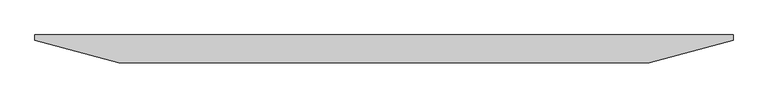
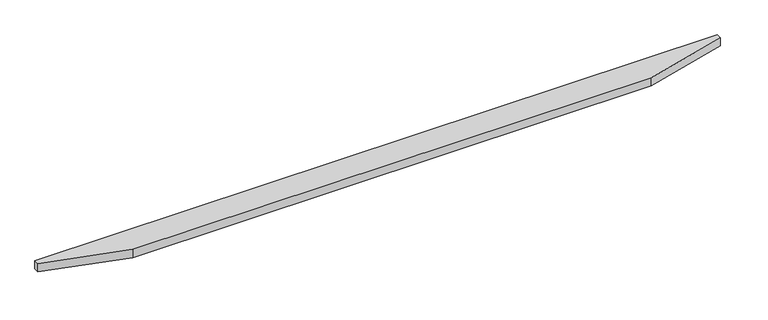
"""IFC4 building model written with IfcOpenShell, lengths in millimetres: proxy geometry, IMPRESS^TABLE 3_2pc 60x120-KEEL."""

from ifc_helpers import new_model, si_unit, origin, origin_with_axes, place, context, project, spatial, polyline, outline, extrude, source, transform, mapped, element, save


def generic_models_9a3d8a30(model_context):
    return source(origin(), model_context, "Body", "SweptSolid", [
        extrude(outline(polyline([(304.8, 0.0), (0.0, 82.55), (0.0, 101.6), (2540.0, 101.6), (2540.0, 82.55), (2235.2, 0.0), (304.8, 0.0)])), origin_with_axes(), (0.0, 0.0, 1.0), 31.75),
    ])


if __name__ == "__main__":
    model = new_model("IFC4")
    model_context = context("Model", 3, world=origin())
    ifc_project = project(units=[si_unit("LENGTHUNIT", "METRE", prefix="MILLI")], contexts=[model_context])
    site = spatial("IfcSite", under=ifc_project)
    building = spatial("IfcBuilding", under=site)
    placement = place(None, origin())
    generic_models_shape = generic_models_9a3d8a30(model_context)
    element("IfcBuildingElementProxy", 1, Name="IMPRESS^TABLE 3_2pc 60x120-KEEL", ObjectType="IMPRESS^TABLE 3_2pc 60x120-KEEL", at=placement, inside=building, context=model_context, shape_type="MappedRepresentation", body=[
        mapped(generic_models_shape, transform((0.0, 0.0, 0.0), x_axis=(1.0, 0.0, 0.0), y_axis=(0.0, 1.0, 0.0), z_axis=(0.0, 0.0, 1.0))),
    ])
    save(model, "model.ifc")
